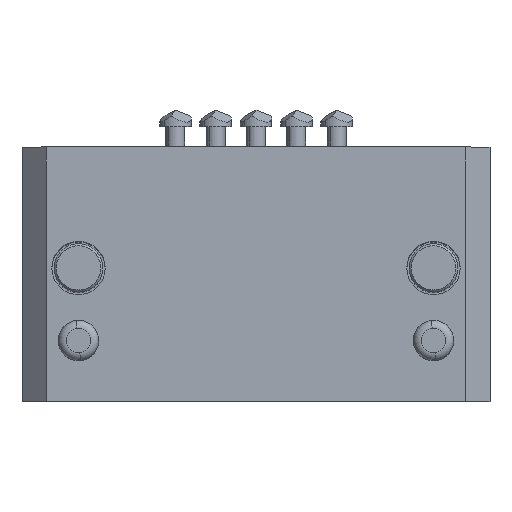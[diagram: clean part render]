
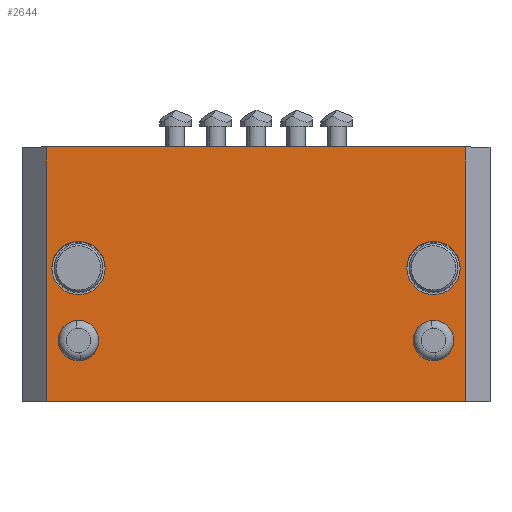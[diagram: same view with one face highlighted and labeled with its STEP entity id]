
A CAD part, top view. The second image highlights one B-rep face of the part: STEP entity #2644.
In plain terms, the highlighted planar face has unit normal (0, 0, 1).
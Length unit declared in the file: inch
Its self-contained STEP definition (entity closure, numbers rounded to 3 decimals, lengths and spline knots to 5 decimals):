
#176 = CARTESIAN_POINT ( 'NONE',  ( -0.51181, 0.31004, 0.47244 ) ) ;
#197 = EDGE_LOOP ( 'NONE', ( #2574, #4722 ) ) ;
#280 = DIRECTION ( 'NONE',  ( -1., 0., 0. ) ) ;
#412 = DIRECTION ( 'NONE',  ( -1., 0., 0. ) ) ;
#484 = EDGE_CURVE ( 'NONE', #1070, #6970, #5966, .T. ) ;
#531 = CARTESIAN_POINT ( 'NONE',  ( 0.36811, 0.01476, 0.47244 ) ) ;
#582 = CARTESIAN_POINT ( 'NONE',  ( 0.51181, 0., 0.47244 ) ) ;
#676 = CIRCLE ( 'NONE', #4636, 0.06496 ) ;
#693 = CARTESIAN_POINT ( 'NONE',  ( 0.43307, -0.1624, 0.47244 ) ) ;
#707 = CARTESIAN_POINT ( 'NONE',  ( -0.36811, 0.01476, 0.47244 ) ) ;
#803 = AXIS2_PLACEMENT_3D ( 'NONE', #5460, #2693, #1108 ) ;
#859 = CARTESIAN_POINT ( 'NONE',  ( -0.51181, 0., 0.47244 ) ) ;
#862 = VERTEX_POINT ( 'NONE', #1709 ) ;
#871 = ORIENTED_EDGE ( 'NONE', *, *, #6740, .T. ) ;
#987 = VECTOR ( 'NONE', #3004, 39.37008 ) ;
#1034 = CIRCLE ( 'NONE', #2259, 0.04895 ) ;
#1035 = AXIS2_PLACEMENT_3D ( 'NONE', #3895, #2081, #2639 ) ;
#1070 = VERTEX_POINT ( 'NONE', #707 ) ;
#1108 = DIRECTION ( 'NONE',  ( -1., 0., 0. ) ) ;
#1323 = FACE_OUTER_BOUND ( 'NONE', #1859, .T. ) ;
#1453 = VERTEX_POINT ( 'NONE', #531 ) ;
#1676 = ORIENTED_EDGE ( 'NONE', *, *, #2338, .T. ) ;
#1709 = CARTESIAN_POINT ( 'NONE',  ( 0.51181, -0.31004, 0.47244 ) ) ;
#1859 = EDGE_LOOP ( 'NONE', ( #5931, #871, #4326, #4646 ) ) ;
#1923 = CIRCLE ( 'NONE', #3156, 0.06496 ) ;
#2081 = DIRECTION ( 'NONE',  ( 0., 0., 1. ) ) ;
#2189 = CARTESIAN_POINT ( 'NONE',  ( 0.43307, 0.01476, 0.47244 ) ) ;
#2234 = DIRECTION ( 'NONE',  ( 0., 1., 0. ) ) ;
#2238 = CARTESIAN_POINT ( 'NONE',  ( -0.43307, -0.1624, 0.47244 ) ) ;
#2259 = AXIS2_PLACEMENT_3D ( 'NONE', #6021, #2886, #3314 ) ;
#2264 = ORIENTED_EDGE ( 'NONE', *, *, #2549, .T. ) ;
#2291 = CARTESIAN_POINT ( 'NONE',  ( -0.57087, 0.31004, 0.47244 ) ) ;
#2338 = EDGE_CURVE ( 'NONE', #5076, #1453, #1923, .T. ) ;
#2379 = FACE_BOUND ( 'NONE', #5637, .T. ) ;
#2449 = FACE_BOUND ( 'NONE', #5208, .T. ) ;
#2451 = VERTEX_POINT ( 'NONE', #6074 ) ;
#2491 = EDGE_CURVE ( 'NONE', #5305, #862, #6564, .T. ) ;
#2549 = EDGE_CURVE ( 'NONE', #6970, #1070, #3952, .T. ) ;
#2558 = EDGE_CURVE ( 'NONE', #862, #6264, #5424, .T. ) ;
#2574 = ORIENTED_EDGE ( 'NONE', *, *, #3109, .F. ) ;
#2639 = DIRECTION ( 'NONE',  ( 1., 0., 0. ) ) ;
#2644 = ADVANCED_FACE ( 'NONE', ( #5075, #2379, #2449, #2902, #1323 ), #3440, .F. ) ;
#2662 = VERTEX_POINT ( 'NONE', #6710 ) ;
#2693 = DIRECTION ( 'NONE',  ( 0., 0., -1. ) ) ;
#2762 = VERTEX_POINT ( 'NONE', #5376 ) ;
#2815 = ORIENTED_EDGE ( 'NONE', *, *, #484, .T. ) ;
#2884 = EDGE_CURVE ( 'NONE', #1453, #5076, #676, .T. ) ;
#2886 = DIRECTION ( 'NONE',  ( 0., 0., 1. ) ) ;
#2902 = FACE_BOUND ( 'NONE', #197, .T. ) ;
#2938 = CIRCLE ( 'NONE', #1035, 0.04895 ) ;
#3004 = DIRECTION ( 'NONE',  ( 0., -1., 0. ) ) ;
#3109 = EDGE_CURVE ( 'NONE', #6516, #2762, #1034, .T. ) ;
#3110 = CARTESIAN_POINT ( 'NONE',  ( 0.49803, 0.01476, 0.47244 ) ) ;
#3156 = AXIS2_PLACEMENT_3D ( 'NONE', #5225, #5256, #280 ) ;
#3207 = CARTESIAN_POINT ( 'NONE',  ( -0.51181, -0.31004, 0.47244 ) ) ;
#3219 = DIRECTION ( 'NONE',  ( -1., 0., 0. ) ) ;
#3273 = VECTOR ( 'NONE', #2234, 39.37008 ) ;
#3314 = DIRECTION ( 'NONE',  ( 1., 0., 0. ) ) ;
#3327 = CARTESIAN_POINT ( 'NONE',  ( -0.57087, -0.31004, 0.47244 ) ) ;
#3440 = PLANE ( 'NONE',  #6791 ) ;
#3499 = EDGE_CURVE ( 'NONE', #2762, #6516, #5731, .T. ) ;
#3752 = CIRCLE ( 'NONE', #5914, 0.04895 ) ;
#3799 = DIRECTION ( 'NONE',  ( 1., 0., 0. ) ) ;
#3841 = VECTOR ( 'NONE', #4423, 39.37008 ) ;
#3895 = CARTESIAN_POINT ( 'NONE',  ( -0.43307, -0.1624, 0.47244 ) ) ;
#3952 = CIRCLE ( 'NONE', #803, 0.06496 ) ;
#4255 = EDGE_CURVE ( 'NONE', #2662, #2451, #2938, .T. ) ;
#4326 = ORIENTED_EDGE ( 'NONE', *, *, #4922, .T. ) ;
#4423 = DIRECTION ( 'NONE',  ( 1., 0., 0. ) ) ;
#4473 = DIRECTION ( 'NONE',  ( 1., 0., 0. ) ) ;
#4571 = DIRECTION ( 'NONE',  ( 0., 0., -1. ) ) ;
#4581 = DIRECTION ( 'NONE',  ( -1., 0., 0. ) ) ;
#4607 = DIRECTION ( 'NONE',  ( -1., 0., 0. ) ) ;
#4636 = AXIS2_PLACEMENT_3D ( 'NONE', #2189, #6848, #412 ) ;
#4646 = ORIENTED_EDGE ( 'NONE', *, *, #2491, .T. ) ;
#4658 = CARTESIAN_POINT ( 'NONE',  ( 0.51181, 0.31004, 0.47244 ) ) ;
#4722 = ORIENTED_EDGE ( 'NONE', *, *, #3499, .F. ) ;
#4922 = EDGE_CURVE ( 'NONE', #5497, #5305, #6700, .T. ) ;
#5011 = DIRECTION ( 'NONE',  ( 0., 0., 1. ) ) ;
#5075 = FACE_BOUND ( 'NONE', #5884, .T. ) ;
#5076 = VERTEX_POINT ( 'NONE', #3110 ) ;
#5208 = EDGE_LOOP ( 'NONE', ( #6388, #5726 ) ) ;
#5225 = CARTESIAN_POINT ( 'NONE',  ( 0.43307, 0.01476, 0.47244 ) ) ;
#5227 = DIRECTION ( 'NONE',  ( 0., 0., -1. ) ) ;
#5256 = DIRECTION ( 'NONE',  ( 0., 0., -1. ) ) ;
#5305 = VERTEX_POINT ( 'NONE', #3207 ) ;
#5376 = CARTESIAN_POINT ( 'NONE',  ( 0.38412, -0.1624, 0.47244 ) ) ;
#5424 = LINE ( 'NONE', #582, #3273 ) ;
#5460 = CARTESIAN_POINT ( 'NONE',  ( -0.43307, 0.01476, 0.47244 ) ) ;
#5492 = AXIS2_PLACEMENT_3D ( 'NONE', #693, #5011, #4473 ) ;
#5497 = VERTEX_POINT ( 'NONE', #176 ) ;
#5637 = EDGE_LOOP ( 'NONE', ( #6896, #1676 ) ) ;
#5726 = ORIENTED_EDGE ( 'NONE', *, *, #4255, .F. ) ;
#5731 = CIRCLE ( 'NONE', #5492, 0.04895 ) ;
#5884 = EDGE_LOOP ( 'NONE', ( #2264, #2815 ) ) ;
#5914 = AXIS2_PLACEMENT_3D ( 'NONE', #2238, #5967, #3799 ) ;
#5931 = ORIENTED_EDGE ( 'NONE', *, *, #2558, .T. ) ;
#5966 = CIRCLE ( 'NONE', #6878, 0.06496 ) ;
#5967 = DIRECTION ( 'NONE',  ( 0., 0., 1. ) ) ;
#6021 = CARTESIAN_POINT ( 'NONE',  ( 0.43307, -0.1624, 0.47244 ) ) ;
#6074 = CARTESIAN_POINT ( 'NONE',  ( -0.38412, -0.1624, 0.47244 ) ) ;
#6136 = LINE ( 'NONE', #2291, #6715 ) ;
#6208 = CARTESIAN_POINT ( 'NONE',  ( -0.49803, 0.01476, 0.47244 ) ) ;
#6253 = CARTESIAN_POINT ( 'NONE',  ( 0., 0., 0.47244 ) ) ;
#6264 = VERTEX_POINT ( 'NONE', #4658 ) ;
#6286 = EDGE_CURVE ( 'NONE', #2451, #2662, #3752, .T. ) ;
#6388 = ORIENTED_EDGE ( 'NONE', *, *, #6286, .F. ) ;
#6516 = VERTEX_POINT ( 'NONE', #6642 ) ;
#6564 = LINE ( 'NONE', #3327, #3841 ) ;
#6642 = CARTESIAN_POINT ( 'NONE',  ( 0.48202, -0.1624, 0.47244 ) ) ;
#6700 = LINE ( 'NONE', #859, #987 ) ;
#6710 = CARTESIAN_POINT ( 'NONE',  ( -0.48202, -0.1624, 0.47244 ) ) ;
#6715 = VECTOR ( 'NONE', #3219, 39.37008 ) ;
#6740 = EDGE_CURVE ( 'NONE', #6264, #5497, #6136, .T. ) ;
#6791 = AXIS2_PLACEMENT_3D ( 'NONE', #6253, #4571, #4607 ) ;
#6848 = DIRECTION ( 'NONE',  ( 0., 0., -1. ) ) ;
#6856 = CARTESIAN_POINT ( 'NONE',  ( -0.43307, 0.01476, 0.47244 ) ) ;
#6878 = AXIS2_PLACEMENT_3D ( 'NONE', #6856, #5227, #4581 ) ;
#6896 = ORIENTED_EDGE ( 'NONE', *, *, #2884, .T. ) ;
#6970 = VERTEX_POINT ( 'NONE', #6208 ) ;
